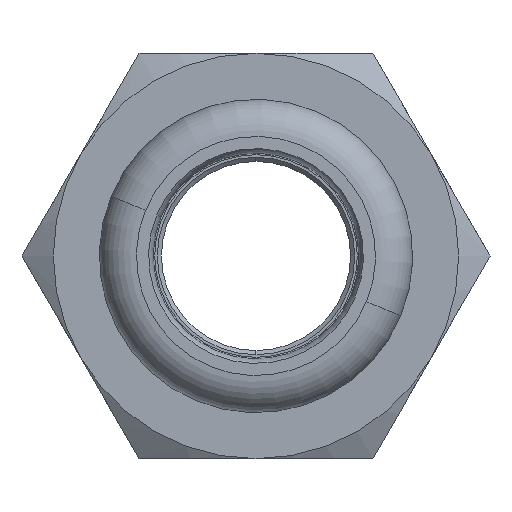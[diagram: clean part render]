
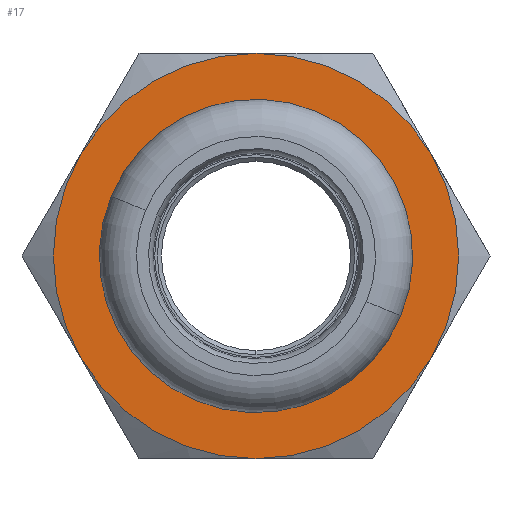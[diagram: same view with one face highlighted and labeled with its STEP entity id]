
A CAD part, left-side view. The second image highlights one B-rep face of the part: STEP entity #17.
In plain terms, the highlighted planar face has unit normal (-1, 0, 0) as drawn and (0, 1, 0) by its records, which use the part's own axes.
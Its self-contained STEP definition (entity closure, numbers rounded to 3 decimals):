
#17 = ADVANCED_FACE ( 'NONE', ( #1974, #1183 ), #1652, .T. ) ;
#20 = VERTEX_POINT ( 'NONE', #656 ) ;
#67 = ORIENTED_EDGE ( 'NONE', *, *, #3411, .T. ) ;
#92 = DIRECTION ( 'NONE',  ( 0., 0., 1. ) ) ;
#218 = DIRECTION ( 'NONE',  ( 0., 0., 1. ) ) ;
#276 = DIRECTION ( 'NONE',  ( 0., 1., 0. ) ) ;
#336 = DIRECTION ( 'NONE',  ( 0., 1., 0. ) ) ;
#379 = DIRECTION ( 'NONE',  ( 0., 1., 0. ) ) ;
#598 = CIRCLE ( 'NONE', #2520, 15. ) ;
#645 = CARTESIAN_POINT ( 'NONE',  ( -12.99, 15., -7.5 ) ) ;
#656 = CARTESIAN_POINT ( 'NONE',  ( -12.99, 15., 7.5 ) ) ;
#697 = DIRECTION ( 'NONE',  ( 0., 0., 1. ) ) ;
#737 = CARTESIAN_POINT ( 'NONE',  ( 0., 15., -15. ) ) ;
#886 = CARTESIAN_POINT ( 'NONE',  ( 0., 15., 0. ) ) ;
#970 = EDGE_CURVE ( 'NONE', #1274, #2282, #598, .T. ) ;
#979 = CARTESIAN_POINT ( 'NONE',  ( 0., 15., -10.8 ) ) ;
#1006 = CARTESIAN_POINT ( 'NONE',  ( 0., 15., 0. ) ) ;
#1090 = DIRECTION ( 'NONE',  ( 0., 1., 0. ) ) ;
#1125 = AXIS2_PLACEMENT_3D ( 'NONE', #2579, #336, #1926 ) ;
#1183 = FACE_OUTER_BOUND ( 'NONE', #1763, .T. ) ;
#1205 = CIRCLE ( 'NONE', #2765, 15. ) ;
#1236 = AXIS2_PLACEMENT_3D ( 'NONE', #1720, #2666, #2015 ) ;
#1274 = VERTEX_POINT ( 'NONE', #1470 ) ;
#1315 = ORIENTED_EDGE ( 'NONE', *, *, #1657, .F. ) ;
#1339 = EDGE_CURVE ( 'NONE', #20, #3589, #1595, .T. ) ;
#1398 = CARTESIAN_POINT ( 'NONE',  ( 0., 15., 10.8 ) ) ;
#1421 = EDGE_CURVE ( 'NONE', #1818, #2785, #1205, .T. ) ;
#1450 = EDGE_CURVE ( 'NONE', #3589, #1274, #1941, .T. ) ;
#1452 = CIRCLE ( 'NONE', #4119, 10.8 ) ;
#1470 = CARTESIAN_POINT ( 'NONE',  ( 12.99, 15., 7.5 ) ) ;
#1595 = CIRCLE ( 'NONE', #3259, 15. ) ;
#1601 = AXIS2_PLACEMENT_3D ( 'NONE', #1730, #1090, #92 ) ;
#1620 = ORIENTED_EDGE ( 'NONE', *, *, #2977, .F. ) ;
#1652 = PLANE ( 'NONE',  #3173 ) ;
#1657 = EDGE_CURVE ( 'NONE', #2804, #1824, #2552, .T. ) ;
#1707 = CARTESIAN_POINT ( 'NONE',  ( 0., 15., 0. ) ) ;
#1720 = CARTESIAN_POINT ( 'NONE',  ( 0., 15., 0. ) ) ;
#1730 = CARTESIAN_POINT ( 'NONE',  ( 0., 15., 0. ) ) ;
#1763 = EDGE_LOOP ( 'NONE', ( #1838, #3877, #2374, #67, #2838, #3234 ) ) ;
#1818 = VERTEX_POINT ( 'NONE', #737 ) ;
#1824 = VERTEX_POINT ( 'NONE', #1398 ) ;
#1838 = ORIENTED_EDGE ( 'NONE', *, *, #1339, .T. ) ;
#1844 = CARTESIAN_POINT ( 'NONE',  ( 0., 15., 0. ) ) ;
#1911 = EDGE_CURVE ( 'NONE', #2785, #20, #3788, .T. ) ;
#1926 = DIRECTION ( 'NONE',  ( 0., 0., 1. ) ) ;
#1941 = CIRCLE ( 'NONE', #1125, 15. ) ;
#1942 = CARTESIAN_POINT ( 'NONE',  ( 0., 15., 0. ) ) ;
#1974 = FACE_BOUND ( 'NONE', #3466, .T. ) ;
#1996 = CARTESIAN_POINT ( 'NONE',  ( 12.99, 15., -7.5 ) ) ;
#2015 = DIRECTION ( 'NONE',  ( 0., 0., 1. ) ) ;
#2282 = VERTEX_POINT ( 'NONE', #1996 ) ;
#2290 = CARTESIAN_POINT ( 'NONE',  ( 0., 15., 0. ) ) ;
#2346 = DIRECTION ( 'NONE',  ( 0., 1., 0. ) ) ;
#2374 = ORIENTED_EDGE ( 'NONE', *, *, #970, .T. ) ;
#2483 = DIRECTION ( 'NONE',  ( 0., 0., 1. ) ) ;
#2500 = AXIS2_PLACEMENT_3D ( 'NONE', #1942, #3272, #3591 ) ;
#2520 = AXIS2_PLACEMENT_3D ( 'NONE', #1707, #2346, #3320 ) ;
#2552 = CIRCLE ( 'NONE', #1601, 10.8 ) ;
#2571 = DIRECTION ( 'NONE',  ( 0., 0., 1. ) ) ;
#2579 = CARTESIAN_POINT ( 'NONE',  ( 0., 15., 0. ) ) ;
#2615 = DIRECTION ( 'NONE',  ( 0., 1., 0. ) ) ;
#2666 = DIRECTION ( 'NONE',  ( 0., 1., 0. ) ) ;
#2765 = AXIS2_PLACEMENT_3D ( 'NONE', #886, #3419, #218 ) ;
#2785 = VERTEX_POINT ( 'NONE', #645 ) ;
#2804 = VERTEX_POINT ( 'NONE', #979 ) ;
#2838 = ORIENTED_EDGE ( 'NONE', *, *, #1421, .T. ) ;
#2977 = EDGE_CURVE ( 'NONE', #1824, #2804, #1452, .T. ) ;
#3109 = CIRCLE ( 'NONE', #2500, 15. ) ;
#3173 = AXIS2_PLACEMENT_3D ( 'NONE', #1006, #2615, #2571 ) ;
#3234 = ORIENTED_EDGE ( 'NONE', *, *, #1911, .T. ) ;
#3259 = AXIS2_PLACEMENT_3D ( 'NONE', #1844, #276, #2483 ) ;
#3272 = DIRECTION ( 'NONE',  ( 0., 1., 0. ) ) ;
#3320 = DIRECTION ( 'NONE',  ( 0., 0., 1. ) ) ;
#3411 = EDGE_CURVE ( 'NONE', #2282, #1818, #3109, .T. ) ;
#3419 = DIRECTION ( 'NONE',  ( 0., 1., 0. ) ) ;
#3466 = EDGE_LOOP ( 'NONE', ( #1620, #1315 ) ) ;
#3589 = VERTEX_POINT ( 'NONE', #4018 ) ;
#3591 = DIRECTION ( 'NONE',  ( 0., 0., 1. ) ) ;
#3788 = CIRCLE ( 'NONE', #1236, 15. ) ;
#3877 = ORIENTED_EDGE ( 'NONE', *, *, #1450, .T. ) ;
#4018 = CARTESIAN_POINT ( 'NONE',  ( 0., 15., 15. ) ) ;
#4119 = AXIS2_PLACEMENT_3D ( 'NONE', #2290, #379, #697 ) ;
